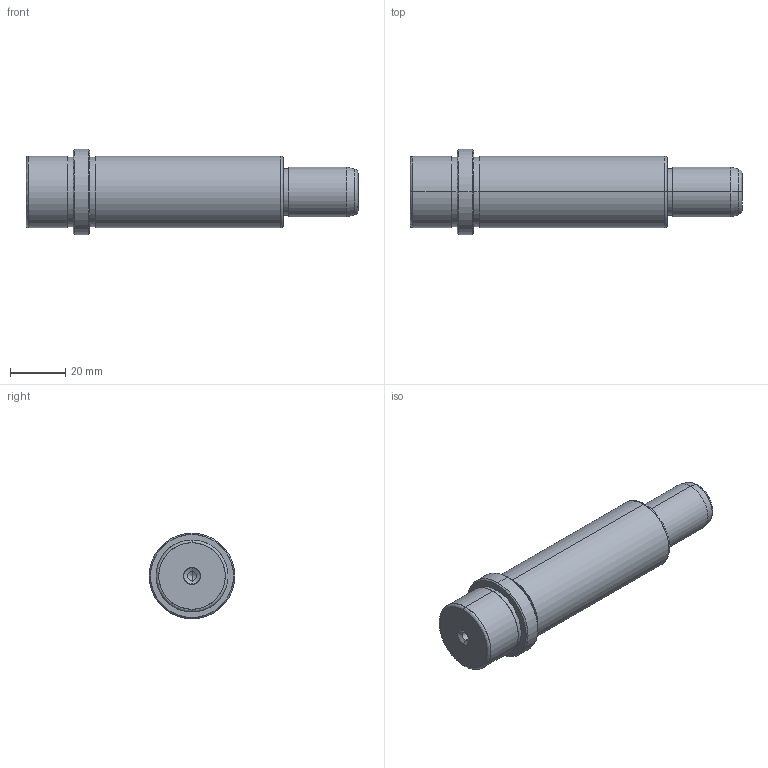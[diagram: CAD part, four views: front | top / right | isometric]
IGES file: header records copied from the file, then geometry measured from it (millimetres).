
Start section: SolidWorks IGES file using analytic representation for surfaces
Global section: file name: D:\TRIVECTOR\2026\09_Setembro\CGM-COLUNA PRINCIPAL GUIADA\CGM18076027.IGS; native system: SolidWorks 2024; preprocessor: SolidWorks 2024; author: Usuario; date: 260923.151655; units: millimetre
Bounding box: 120 x 31 x 31 mm (x, y, z)
Surface area: 10847.4 mm2 (no closed solid volume)
Topology: 0 solids, 0 shells, 46 faces, 728 edges, 724 vertices
Faces by surface type: revolution 32, bspline 14
